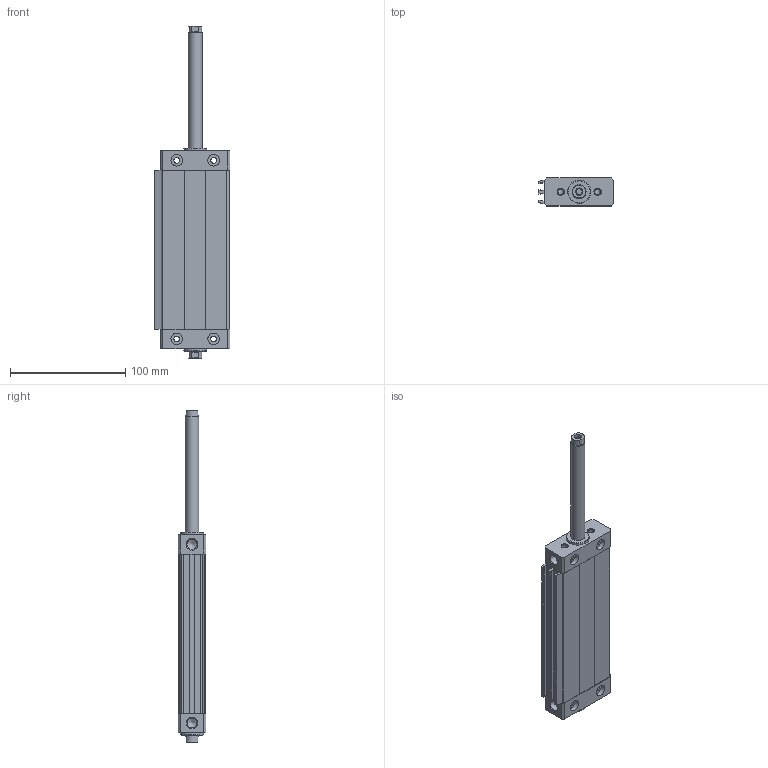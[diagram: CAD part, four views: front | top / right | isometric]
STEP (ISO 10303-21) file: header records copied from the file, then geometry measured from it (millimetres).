
FILE_DESCRIPTION((''),'2;1');
FILE_NAME('I:\Area Tecnica\Disegni\VARIE-3D\Componenti\1370 - CPO\1370_##_0000_03\1370_32_0100_03-01.iam.step','2010-12-16T10:54:53',(''),(''),'Autodesk Inventor 2011','Autodesk Inventor 2011','');
FILE_SCHEMA(('AUTOMOTIVE_DESIGN { 1 0 10303 214 1 1 1 1 }'));
Length unit declared in the file: millimetre
Products named in the file (5): 1370_32_0100_03-01; 1370_05_32_0000; 1370_06_32_0100; 1370_08_32_0000; 1370_3_32_0100
Assembly tree (4 placements, depth 2):
  1370_32_0100_03-01
    1370_05_32_0000
    1370_06_32_0100
    1370_08_32_0000
    1370_3_32_0100
Bounding box: 65.5 x 24 x 288 mm (x, y, z)
Volume: 180158.6 mm3; surface area: 77855 mm2
Topology: 4 solids, 4 shells, 164 faces, 392 edges, 250 vertices
Faces by surface type: plane 92, cylinder 48, cone 24
Full cylindrical faces by diameter (mm): 5 x12, 6.3 x2, 8.7 x2, 10 x8, 11.5 x2, 12 x4, 20 x2
Entity records: 4780 total; most frequent: DIRECTION 792, CARTESIAN_POINT 787, ORIENTED_EDGE 660, EDGE_CURVE 330, AXIS2_PLACEMENT_3D 297, EDGE_LOOP 252, VERTEX_POINT 240, VECTOR 198
